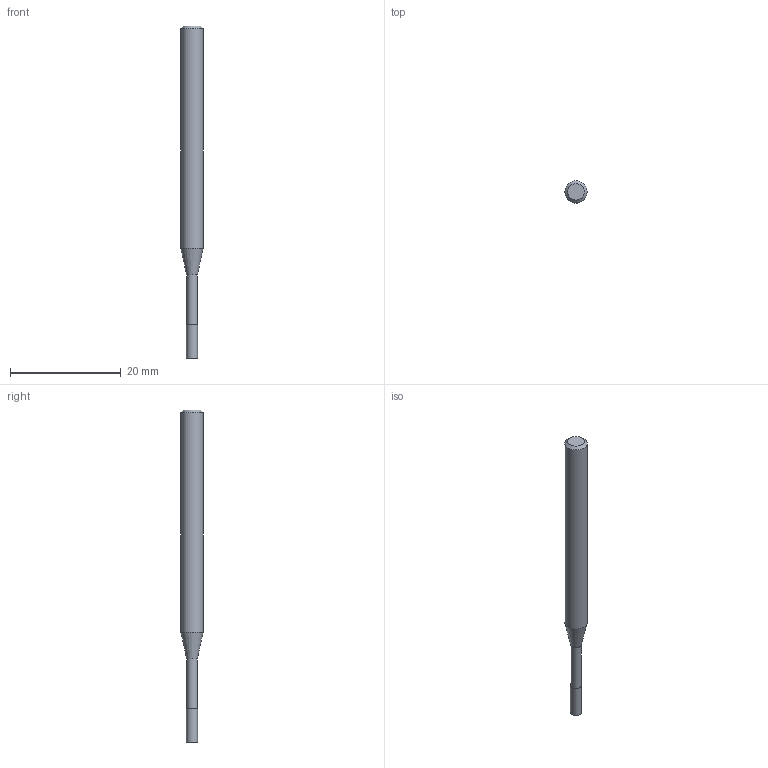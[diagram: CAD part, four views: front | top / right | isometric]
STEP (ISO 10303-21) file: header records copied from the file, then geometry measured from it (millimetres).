
FILE_DESCRIPTION((''),'2;1');
FILE_NAME('C:\Users\nsx150\Desktop\RSE230_20210427\01-00644-02015 RSE230 D2X6X15.step','2021-05-07T14:53:41',(''),(''),'STEP Write','Mastercam 2021 ... CNC Software, Inc.','');
FILE_SCHEMA(('AUTOMOTIVE_DESIGN'));
Length unit declared in the file: millimetre
Products named in the file (1): None
Bounding box: 4 x 4 x 60 mm (x, y, z)
Volume: 583.5 mm3; surface area: 661.2 mm2
Topology: 2 solids, 2 shells, 9 faces, 12 edges, 7 vertices
Faces by surface type: plane 4, cylinder 3, cone 2
Full cylindrical faces by diameter (mm): 1.94 x1, 2 x1, 4 x1
Entity records: 211 total; most frequent: DIRECTION 36, CARTESIAN_POINT 25, AXIS2_PLACEMENT_3D 18, ORIENTED_EDGE 14, EDGE_LOOP 14, STYLED_ITEM 12, ADVANCED_FACE 9, FACE_BOUND 8
